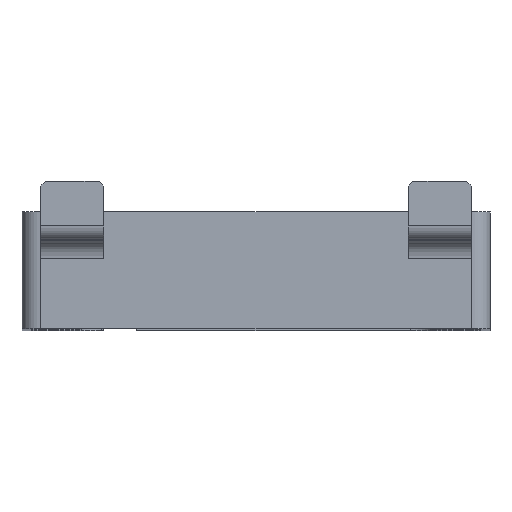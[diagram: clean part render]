
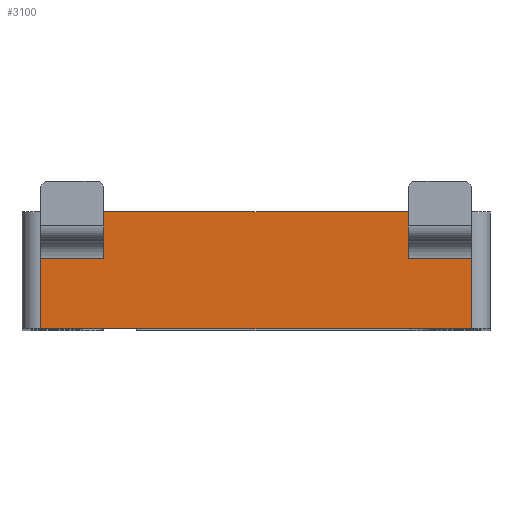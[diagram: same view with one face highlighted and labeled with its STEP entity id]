
A CAD part, top view. The second image highlights one B-rep face of the part: STEP entity #3100.
In plain terms, the highlighted planar face has unit normal (0, 0, 1).
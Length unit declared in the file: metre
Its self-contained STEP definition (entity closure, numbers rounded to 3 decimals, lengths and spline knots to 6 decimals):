
#183=ORIENTED_EDGE('',*,*,#1119,.F.);
#184=ORIENTED_EDGE('',*,*,#1120,.F.);
#185=ORIENTED_EDGE('',*,*,#1121,.T.);
#186=ORIENTED_EDGE('',*,*,#1122,.T.);
#187=ORIENTED_EDGE('',*,*,#1123,.T.);
#188=ORIENTED_EDGE('',*,*,#1124,.F.);
#189=ORIENTED_EDGE('',*,*,#1125,.F.);
#190=ORIENTED_EDGE('',*,*,#1126,.T.);
#1119=EDGE_CURVE('',#1587,#1588,#1887,.T.);
#1120=EDGE_CURVE('',#1589,#1587,#1888,.T.);
#1121=EDGE_CURVE('',#1589,#1590,#1889,.T.);
#1122=EDGE_CURVE('',#1590,#1591,#1890,.T.);
#1123=EDGE_CURVE('',#1591,#1592,#1891,.T.);
#1124=EDGE_CURVE('',#1593,#1592,#1892,.T.);
#1125=EDGE_CURVE('',#1594,#1593,#1893,.T.);
#1126=EDGE_CURVE('',#1594,#1588,#1894,.T.);
#1587=VERTEX_POINT('',#4510);
#1588=VERTEX_POINT('',#4511);
#1589=VERTEX_POINT('',#4513);
#1590=VERTEX_POINT('',#4515);
#1591=VERTEX_POINT('',#4517);
#1592=VERTEX_POINT('',#4519);
#1593=VERTEX_POINT('',#4521);
#1594=VERTEX_POINT('',#4523);
#1887=LINE('',#4509,#2241);
#1888=LINE('',#4512,#2242);
#1889=LINE('',#4514,#2243);
#1890=LINE('',#4516,#2244);
#1891=LINE('',#4518,#2245);
#1892=LINE('',#4520,#2246);
#1893=LINE('',#4522,#2247);
#1894=LINE('',#4524,#2248);
#2241=VECTOR('',#3579,1.);
#2242=VECTOR('',#3580,1.);
#2243=VECTOR('',#3581,1.);
#2244=VECTOR('',#3582,1.);
#2245=VECTOR('',#3583,1.);
#2246=VECTOR('',#3584,1.);
#2247=VECTOR('',#3585,1.);
#2248=VECTOR('',#3586,1.);
#2595=EDGE_LOOP('',(#183,#184,#185,#186,#187,#188,#189,#190));
#2789=FACE_BOUND('',#2595,.T.);
#2983=PLANE('',#3287);
#3100=ADVANCED_FACE('',(#2789),#2983,.F.);
#3287=AXIS2_PLACEMENT_3D('',#4508,#3577,#3578);
#3577=DIRECTION('',(0.,0.,-1.));
#3578=DIRECTION('',(-1.,0.,0.));
#3579=DIRECTION('',(1.,0.,0.));
#3580=DIRECTION('',(0.,-1.,0.));
#3581=DIRECTION('',(-1.,0.,0.));
#3582=DIRECTION('',(0.,-1.,0.));
#3583=DIRECTION('',(-1.,0.,0.));
#3584=DIRECTION('',(0.,1.,0.));
#3585=DIRECTION('',(-1.,0.,0.));
#3586=DIRECTION('',(0.,1.,0.));
#4508=CARTESIAN_POINT('',(0.,-0.003,0.0964));
#4509=CARTESIAN_POINT('',(0.0325,-0.01,0.0964));
#4510=CARTESIAN_POINT('',(0.0325,-0.01,0.0964));
#4511=CARTESIAN_POINT('',(0.046,-0.01,0.0964));
#4512=CARTESIAN_POINT('',(0.0325,-0.008,0.0964));
#4513=CARTESIAN_POINT('',(0.0325,0.,0.0964));
#4514=CARTESIAN_POINT('',(0.,0.,0.0964));
#4515=CARTESIAN_POINT('',(-0.0325,0.,0.0964));
#4516=CARTESIAN_POINT('',(-0.0325,-0.008,0.0964));
#4517=CARTESIAN_POINT('',(-0.0325,-0.01,0.0964));
#4518=CARTESIAN_POINT('',(-0.0325,-0.01,0.0964));
#4519=CARTESIAN_POINT('',(-0.046,-0.01,0.0964));
#4520=CARTESIAN_POINT('',(-0.046,-0.003,0.0964));
#4521=CARTESIAN_POINT('',(-0.046,-0.025,0.0964));
#4522=CARTESIAN_POINT('',(0.,-0.025,0.0964));
#4523=CARTESIAN_POINT('',(0.046,-0.025,0.0964));
#4524=CARTESIAN_POINT('',(0.046,-0.003,0.0964));
